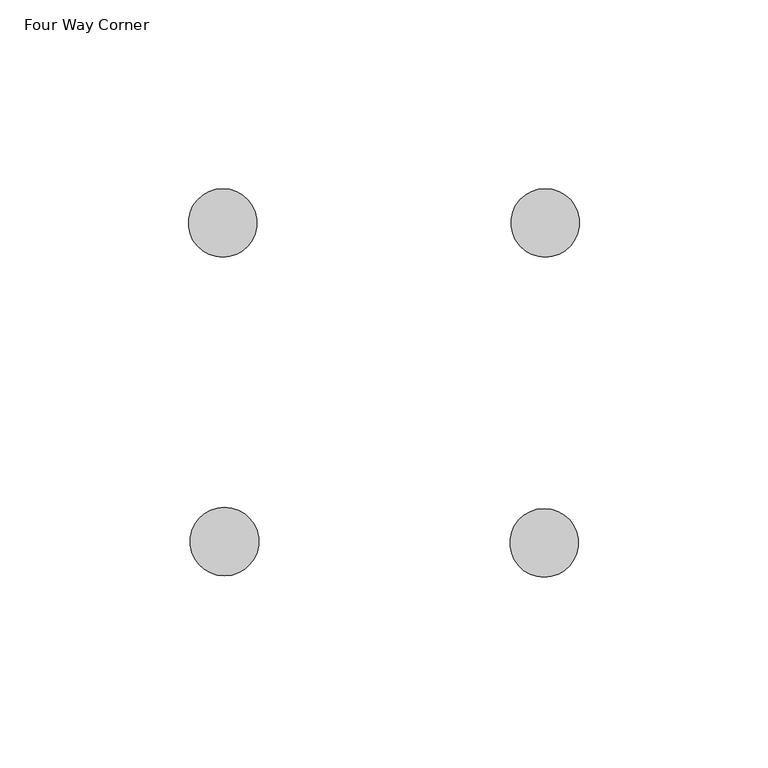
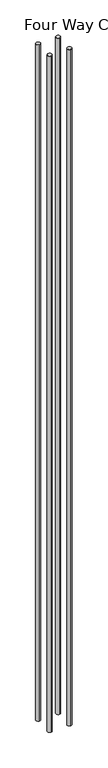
"""IFC4 building model written with IfcOpenShell, lengths in millimetres: proxy geometry, Connection-Corner-Teknion-OptosLP-Four_Way_FZCA4B_D : Four Way Corner."""

from ifc_helpers import new_model, si_unit, point, frame_2d, origin, origin_with_axes, place, context, project, spatial, circle_curve, trimmed, segment, composite_curve, outline, extrude, source, transform, mapped, element, save


def four_way_corner_5c2fb71b(model_context):
    return source(origin(), model_context, "Body", "SweptSolid", [
        extrude(outline(composite_curve([segment(trimmed(circle_curve(frame_2d((-42.3656263, 41.5915184)), 9.0848263), [point((-42.3656263, 50.6763447))], [point((-42.3656263, 32.5066922))], False, "CARTESIAN"), True, "CONTINUOUS"), segment(trimmed(circle_curve(frame_2d((-42.3656263, 41.5915184)), 9.0848263), [point((-42.3656263, 32.5066922))], [point((-42.3656263, 50.6763447))], False, "CARTESIAN"), True, "CONTINUOUS")], self_intersect=False)), origin_with_axes(), (0.0, 0.0, 1.0), 3048.0),
        extrude(outline(composite_curve([segment(trimmed(circle_curve(frame_2d((43.156127, 41.6300352)), 9.0848263), [point((43.156127, 50.7148615))], [point((43.156127, 32.5452089))], False, "CARTESIAN"), True, "CONTINUOUS"), segment(trimmed(circle_curve(frame_2d((43.156127, 41.6300352)), 9.0848263), [point((43.156127, 32.5452089))], [point((43.156127, 50.7148615))], False, "CARTESIAN"), True, "CONTINUOUS")], self_intersect=False)), origin_with_axes(), (0.0, 0.0, 1.0), 3048.0),
        extrude(outline(composite_curve([segment(trimmed(circle_curve(frame_2d((42.8760598, -43.2238862)), 9.0848263), [point((42.8760598, -34.13906))], [point((42.8760598, -52.3087125))], False, "CARTESIAN"), True, "CONTINUOUS"), segment(trimmed(circle_curve(frame_2d((42.8760598, -43.2238862)), 9.0848263), [point((42.8760598, -52.3087125))], [point((42.8760598, -34.13906))], False, "CARTESIAN"), True, "CONTINUOUS")], self_intersect=False)), origin_with_axes(), (0.0, 0.0, 1.0), 3048.0),
        extrude(outline(composite_curve([segment(trimmed(circle_curve(frame_2d((-41.8889637, -42.880517)), 9.0848263), [point((-41.8889637, -33.7956908))], [point((-41.8889637, -51.9653433))], False, "CARTESIAN"), True, "CONTINUOUS"), segment(trimmed(circle_curve(frame_2d((-41.8889637, -42.880517)), 9.0848263), [point((-41.8889637, -51.9653433))], [point((-41.8889637, -33.7956908))], False, "CARTESIAN"), True, "CONTINUOUS")], self_intersect=False)), origin_with_axes(), (0.0, 0.0, 1.0), 3048.0),
    ])


if __name__ == "__main__":
    model = new_model("IFC4")
    model_context = context("Model", 3, world=origin())
    ifc_project = project(units=[si_unit("LENGTHUNIT", "METRE", prefix="MILLI")], contexts=[model_context])
    site = spatial("IfcSite", under=ifc_project)
    building = spatial("IfcBuilding", under=site)
    placement = place(None, origin())
    four_way_corner_shape = four_way_corner_5c2fb71b(model_context)
    element("IfcBuildingElementProxy", 1, Name="Connection-Corner-Teknion-OptosLP-Four_Way_FZCA4B_D : Four Way Corner", ObjectType="Connection-Corner-Teknion-OptosLP-Four_Way_FZCA4B_D : Four Way Corner", at=placement, inside=building, context=model_context, shape_type="MappedRepresentation", body=[
        mapped(four_way_corner_shape, transform((0.0, 0.0, 0.0), x_axis=(1.0, 0.0, 0.0), y_axis=(0.0, 1.0, 0.0), z_axis=(0.0, 0.0, 1.0))),
    ])
    save(model, "model.ifc")
